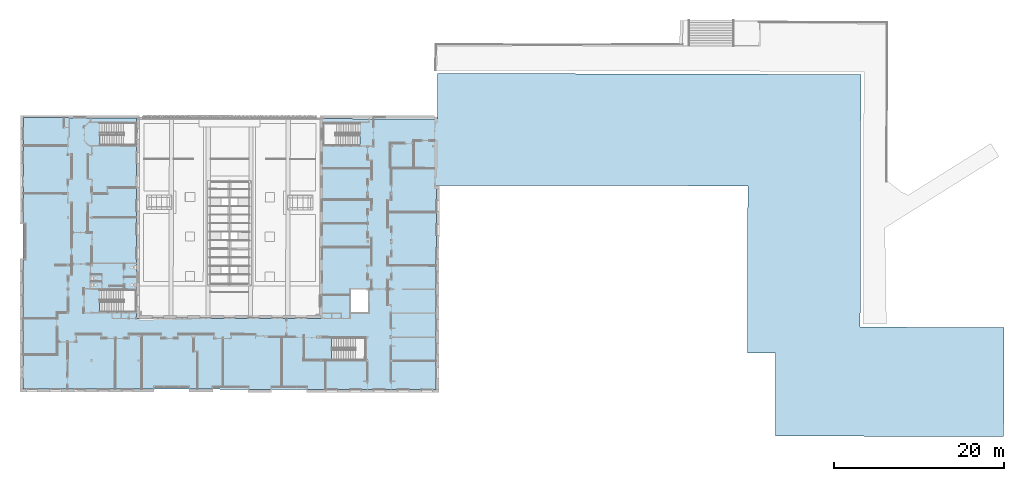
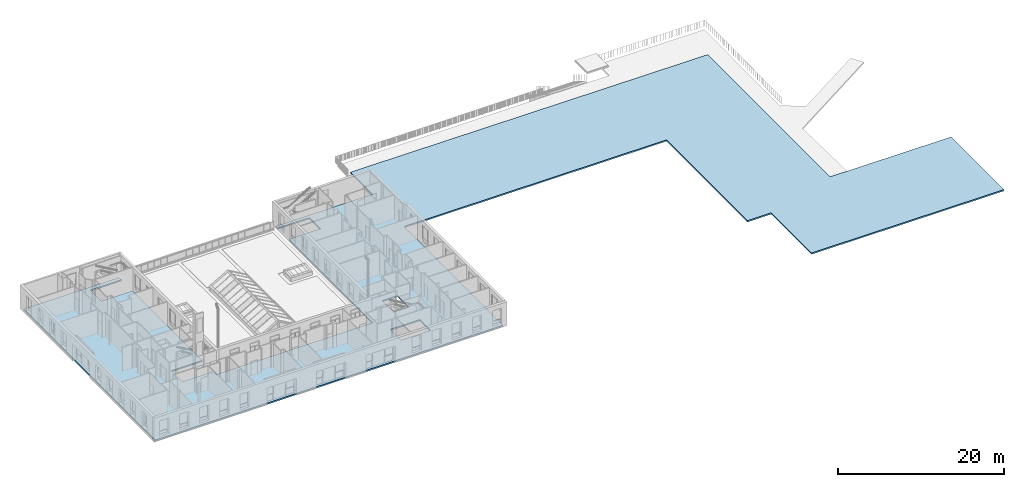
# One storey, part 38 of 101: 1 slab, 2 openings.
"""IFC2X3 building model written with IfcOpenShell, lengths in metres."""

from ifc_helpers import new_model, entity, si_unit, converted_unit, derived_unit, direction, frame, frame_2d, origin, place, context, subcontext, project, spatial, polyline, rectangle, outline, extrude, material, layer, layer_set, layer_usage, type_object, element, save


model = new_model("IFC2X3")

# Units and contexts
model_context = context("Model", 3, precision=1e-05, world=origin(), true_north=direction((6.123233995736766e-17, 1.0)))
body_context = subcontext(model_context, "Body", "Model", "MODEL_VIEW")
ifc_project = project(units=[si_unit("LENGTHUNIT", "METRE"), si_unit("AREAUNIT", "SQUARE_METRE"), converted_unit("PLANEANGLEUNIT", "DEGREE", entity("IfcPlaneAngleMeasure", 0.017453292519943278), si_unit("PLANEANGLEUNIT", "RADIAN"), dimensions=[0, 0, 0, 0, 0, 0, 0]), derived_unit("THERMALTRANSMITTANCEUNIT", [(si_unit("MASSUNIT", "GRAM", prefix="KILO"), 1), (si_unit("THERMODYNAMICTEMPERATUREUNIT", "KELVIN"), -1), (si_unit("TIMEUNIT", "SECOND"), -3)])], contexts=[model_context])

# Site, building, storey
site_placement = place(None, frame((1253.6752467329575, 2072.143113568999, 91.49999999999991), z_axis=(0.0, 0.0, 1.0), x_axis=(0.7237211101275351, 0.6900925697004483, 0.0)))
site = spatial("IfcSite", under=ifc_project, at=site_placement, Name="Surface", CompositionType="ELEMENT")
building_placement = place(site_placement, origin())
building = spatial("IfcBuilding", under=site, at=building_placement, CompositionType="ELEMENT")
storey_placement = place(building_placement, origin())
storey = spatial("IfcBuildingStorey", under=building, at=storey_placement, Name="0- Rdc", CompositionType="ELEMENT", Elevation=-5.764692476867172e-13)

# Slab, openings
ifc_material = material(Name="OMD_Béton blanc")
ifc_layer = layer(ifc_material, 0.2)
ifc_layer_set = layer_set([ifc_layer], Name="Sol:Dalle 20")
ifc_layer_usage = layer_usage(ifc_layer_set, "AXIS3", "POSITIVE", 0.0)
slab_type = type_object("IfcSlabType", Name="Sol:Dalle 20", PredefinedType="FLOOR", material=ifc_layer_set)
slab_placement = place(storey_placement, frame((144.23333768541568, -79.22587034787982, -0.2)))
slab = element("IfcSlab", 1, at=slab_placement, inside=storey, type_object=slab_type, material=ifc_layer_usage, Name="Sol:Dalle 20", ObjectType="Sol:Dalle 20", PredefinedType="FLOOR", context=body_context, shape_type="SweptSolid", body=[
    extrude(outline(polyline([(-20.948132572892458, 42.17739947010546), (-30.55582884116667, 51.361292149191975), (-52.57126977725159, 28.340802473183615), (-17.513104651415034, -5.1709174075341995), (-0.9575658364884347, 12.14859993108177), (25.476066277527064, -13.119379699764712), (11.899513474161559, -27.28346862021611), (14.289072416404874, -29.573907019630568), (7.5456998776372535, -36.60910436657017), (26.90118697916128, -55.161712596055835), (35.76539117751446, -45.91390291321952), (23.578580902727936, -34.232609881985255), (44.10264248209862, -12.820353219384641), (8.208723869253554, 21.584661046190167), (4.515247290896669, 17.731346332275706), (-5.241366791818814, 27.057587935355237), (-5.581053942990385, 26.702225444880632), (-2.3942793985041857, 23.656022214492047), (-4.2392061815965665, 21.72595870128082), (-7.425957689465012, 24.772139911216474), (-21.463293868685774, 10.087031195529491), (-37.222971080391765, 25.151535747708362), (-36.72891765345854, 25.66838796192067), (-39.847718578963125, 28.64961594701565), (-38.002791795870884, 30.579679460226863), (-34.88399087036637, 27.598451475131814), (-23.18563490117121, 39.83664446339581), (-26.294935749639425, 42.80879142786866), (-24.44931530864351, 44.73958060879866), (-21.340014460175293, 41.76743364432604), (-20.948132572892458, 42.17739947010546)])), frame((52.57126977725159, 55.161712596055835, 0.2)), (0.0, 0.0, -1.0), 0.2),
])
opening_1_placement = place(slab_placement, origin())
element("IfcOpeningElement", 2, at=opening_1_placement, cuts=slab, Name="Sol:Dalle 20", ObjectType="Opening", context=body_context, shape_type="SweptSolid", body=[
    extrude(rectangle(XDim=2.7349999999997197, YDim=2.099999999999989, at=frame_2d((6.217248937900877e-15, -6.106226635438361e-15), x_axis=(1.0, 0.0))), frame((35.72647250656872, 63.7148496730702, 0.2), z_axis=(0.0, 0.0, -1.0), x_axis=(-0.6909838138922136, -0.7228702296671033, 0.0)), (0.0, 0.0, 1.0), 0.2),
])
opening_2_placement = place(slab_placement, origin())
element("IfcOpeningElement", 3, at=opening_2_placement, cuts=slab, Name="Sol:Dalle 20", ObjectType="Opening", context=body_context, shape_type="SweptSolid", body=[
    extrude(rectangle(XDim=2.5849999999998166, YDim=4.1299999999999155, at=frame_2d((3.774758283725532e-14, 1.2212453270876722e-14), x_axis=(1.0, 0.0))), frame((30.95103646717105, 60.47740691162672, 0.2), z_axis=(0.0, 0.0, 1.0), x_axis=(-0.6909838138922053, -0.7228702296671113, 0.0)), (0.0, 0.0, -1.0), 0.19999999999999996),
])

save(model, "model.ifc")
